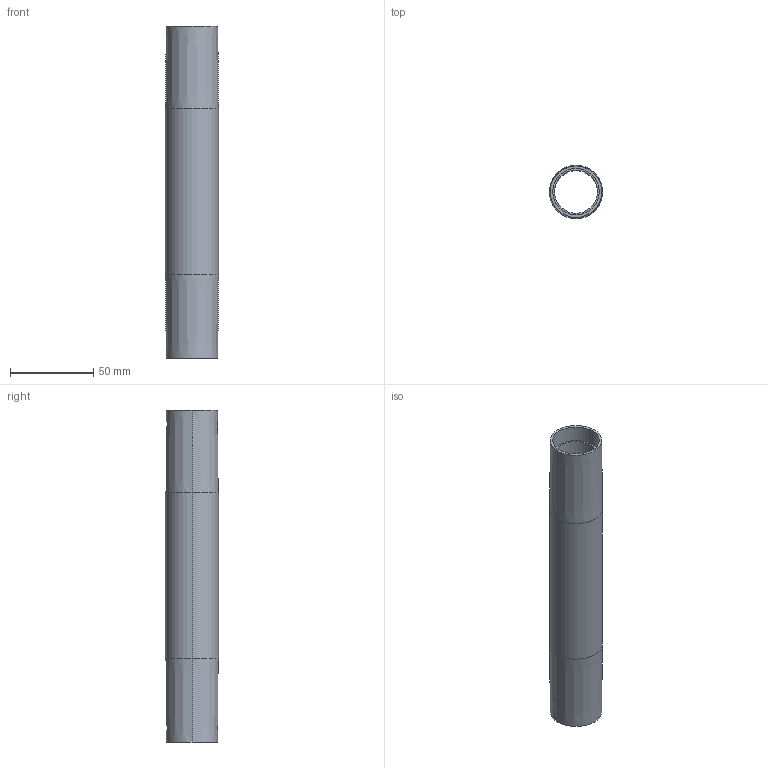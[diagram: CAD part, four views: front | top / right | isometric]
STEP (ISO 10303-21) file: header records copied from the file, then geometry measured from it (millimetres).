
FILE_DESCRIPTION (( 'STEP AP214' ), '1' );
FILE_NAME ('084.030.177.STEP', '2021-02-05T15:46:33', ( '' ), ( '' ), 'SwSTEP 2.0', 'SolidWorks 2018', '' );
FILE_SCHEMA (( 'AUTOMOTIVE_DESIGN' ));
Length unit declared in the file: millimetre
Products named in the file (1): 084.030.177
Bounding box: 32 x 32 x 200 mm (x, y, z)
Volume: 50480.2 mm3; surface area: 36859.2 mm2
Topology: 1 solids, 1 shells, 16 faces, 32 edges, 20 vertices
Faces by surface type: cylinder 8, cone 4, plane 4
Entity records: 462 total; most frequent: DIRECTION 86, CARTESIAN_POINT 69, ORIENTED_EDGE 64, AXIS2_PLACEMENT_3D 37, EDGE_CURVE 32, VERTEX_POINT 20, CIRCLE 20, EDGE_LOOP 20
